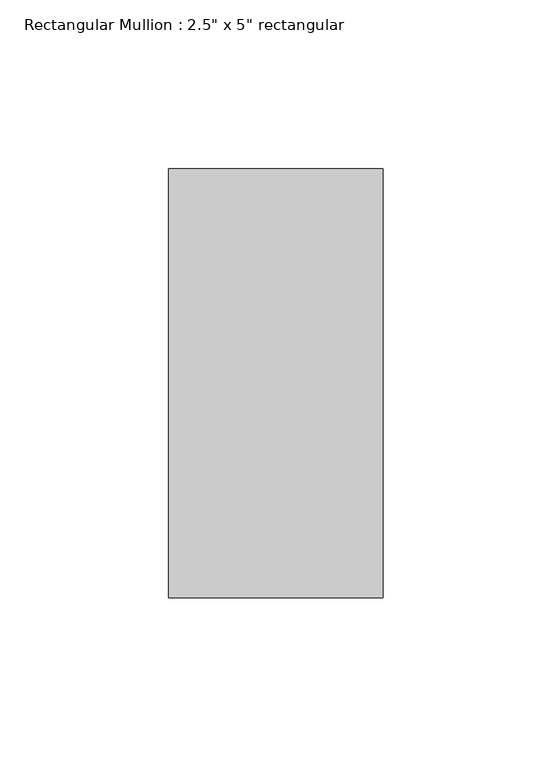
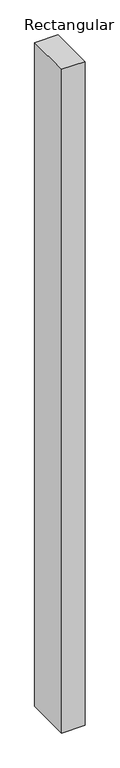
"""IFC4 building model written with IfcOpenShell, lengths in millimetres: member geometry."""

from ifc_helpers import new_model, si_unit, frame, origin, place, context, project, spatial, polyline, outline, extrude, source, transform, mapped, element, save


def member_b37ae9b7(model_context):
    return source(origin(), model_context, "Body", "SweptSolid", [
        extrude(outline(polyline([(31.75, 63.5), (31.75, -63.5), (-31.75, -63.5), (-31.75, 63.5), (31.75, 63.5)])), frame((0.0, 0.0, -1905.0), z_axis=(0.0, 0.0, 1.0), x_axis=(1.0, 0.0, 0.0)), (0.0, 0.0, 1.0), 1905.0),
    ])


if __name__ == "__main__":
    model = new_model("IFC4")
    model_context = context("Model", 3, world=origin())
    ifc_project = project(units=[si_unit("LENGTHUNIT", "METRE", prefix="MILLI")], contexts=[model_context])
    site = spatial("IfcSite", under=ifc_project)
    building = spatial("IfcBuilding", under=site)
    placement = place(None, origin())
    member_shape = member_b37ae9b7(model_context)
    element("IfcMember", 1, ObjectType="Rectangular Mullion : 2.5\" x 5\" rectangular", at=placement, inside=building, context=model_context, shape_type="MappedRepresentation", body=[
        mapped(member_shape, transform((0.0, 0.0, 0.0), x_axis=(1.0, 0.0, 0.0), y_axis=(0.0, 1.0, 0.0), z_axis=(0.0, 0.0, 1.0))),
    ])
    save(model, "model.ifc")
